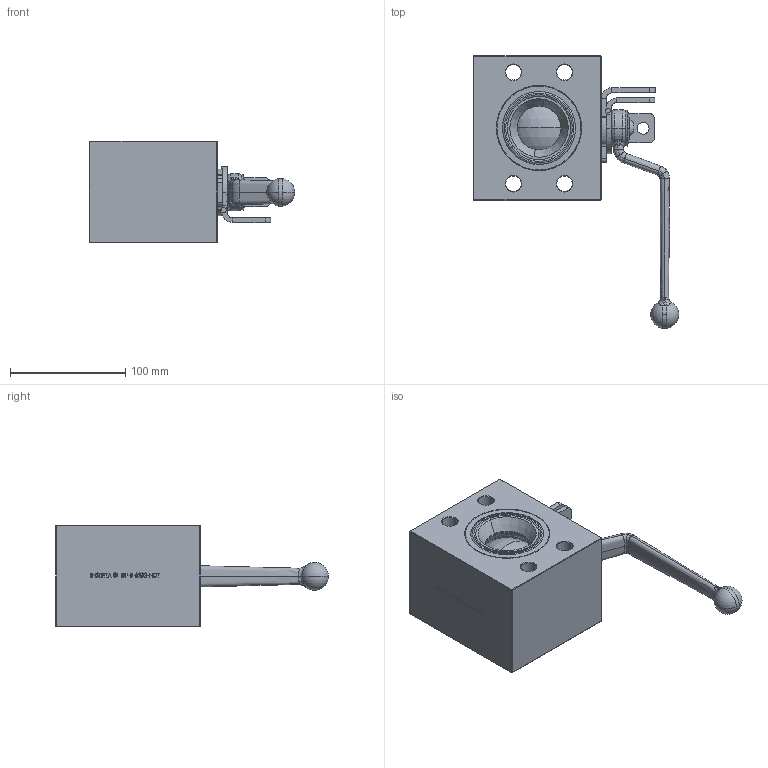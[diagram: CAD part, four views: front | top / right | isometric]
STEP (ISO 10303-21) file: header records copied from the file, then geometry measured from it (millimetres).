
FILE_DESCRIPTION (( 'STEP AP214' ), '1' );
FILE_NAME ('IBF-B-6232-N-D-T Closed.STEP', '2026-02-19T16:22:37', ( '' ), ( '' ), 'SwSTEP 2.0', 'SolidWorks 2025', '' );
FILE_SCHEMA (( 'AUTOMOTIVE_DESIGN' ));
Length unit declared in the file: inch
Products named in the file (1): IBF-B-6232-N-D-T Closed
Bounding box: 178.65 x 237.05 x 88.52 mm (x, y, z)
Volume: 1112266.3 mm3; surface area: 165791.1 mm2
Topology: 2 solids, 3 shells, 1046 faces, 2875 edges, 1869 vertices
Faces by surface type: plane 494, bspline 221, cylinder 161, torus 81, cone 59, sphere 30
Entity records: 60257 total; most frequent: CARTESIAN_POINT 35536, ORIENTED_EDGE 5734, DIRECTION 4264, EDGE_CURVE 2867, VERTEX_POINT 1867, AXIS2_PLACEMENT_3D 1454, LINE 1356, VECTOR 1356
